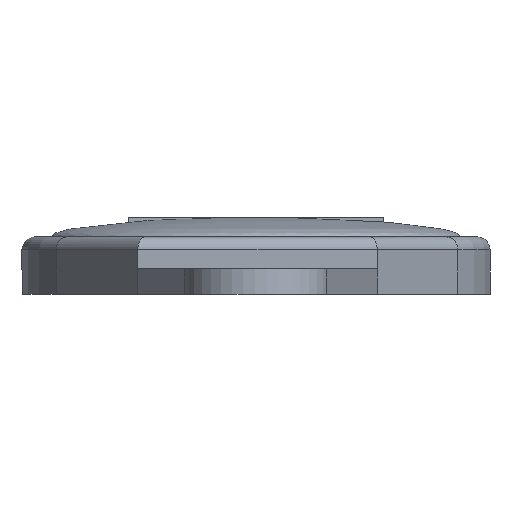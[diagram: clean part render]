
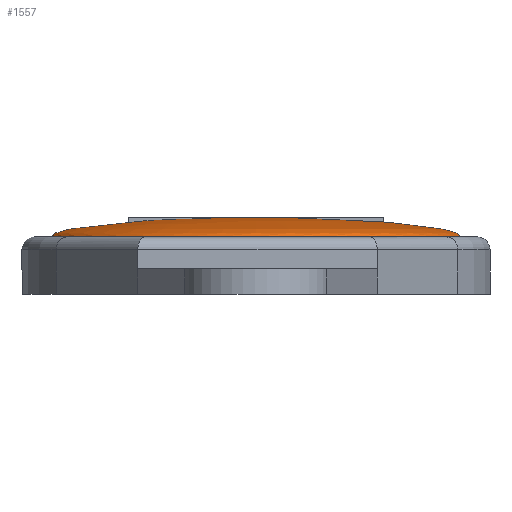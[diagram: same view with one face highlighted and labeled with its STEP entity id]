
A CAD part, front view. The second image highlights one B-rep face of the part: STEP entity #1557.
In plain terms, the highlighted face is a revolution surface.
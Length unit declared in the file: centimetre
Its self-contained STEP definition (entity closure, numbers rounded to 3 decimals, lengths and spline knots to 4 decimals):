
#307=SURFACE_OF_REVOLUTION('',#2296,#3893);
#450=VERTEX_POINT('',#5194);
#451=VERTEX_POINT('',#5200);
#648=EDGE_CURVE('',#450,#450,#2356,.T.);
#649=EDGE_CURVE('',#451,#450,#1646,.T.);
#953=ORIENTED_EDGE('',*,*,#648,.F.);
#954=ORIENTED_EDGE('',*,*,#649,.F.);
#955=ORIENTED_EDGE('',*,*,#649,.T.);
#1328=EDGE_LOOP('',(#953,#954,#955));
#1451=FACE_BOUND('',#1328,.T.);
#1557=ADVANCED_FACE('',(#1451),#307,.F.);
#1646=ELLIPSE('',#3420,1.6,0.1509);
#2296=(
BOUNDED_CURVE()
B_SPLINE_CURVE(2,(#5196,#5197,#5198),.UNSPECIFIED.,.F.,.U.)
B_SPLINE_CURVE_WITH_KNOTS((3,3),(0.,1.5708),.UNSPECIFIED.)
CURVE()
GEOMETRIC_REPRESENTATION_ITEM()
RATIONAL_B_SPLINE_CURVE((1.,0.707,1.))
REPRESENTATION_ITEM('')
);
#2356=CIRCLE('',#3419,1.6);
#3419=AXIS2_PLACEMENT_3D('',#5193,#4310,#4311);
#3420=AXIS2_PLACEMENT_3D('',#5199,#4313,#4314);
#3893=AXIS1_PLACEMENT('',#5195,#4312);
#4310=DIRECTION('',(0.,0.,-1.));
#4311=DIRECTION('',(1.6,0.,0.));
#4312=DIRECTION('',(0.,0.,-1.));
#4313=DIRECTION('',(0.,1.,0.));
#4314=DIRECTION('',(1.6,0.,0.));
#5193=CARTESIAN_POINT('',(0.,0.,0.45));
#5194=CARTESIAN_POINT('',(1.6,0.,0.45));
#5195=CARTESIAN_POINT('',(0.,0.,0.4496));
#5196=CARTESIAN_POINT('',(1.6,0.,0.4496));
#5197=CARTESIAN_POINT('',(1.6,0.,0.6005));
#5198=CARTESIAN_POINT('',(0.,0.,0.6005));
#5199=CARTESIAN_POINT('',(0.,0.,0.4496));
#5200=CARTESIAN_POINT('',(0.,0.,0.6005));
